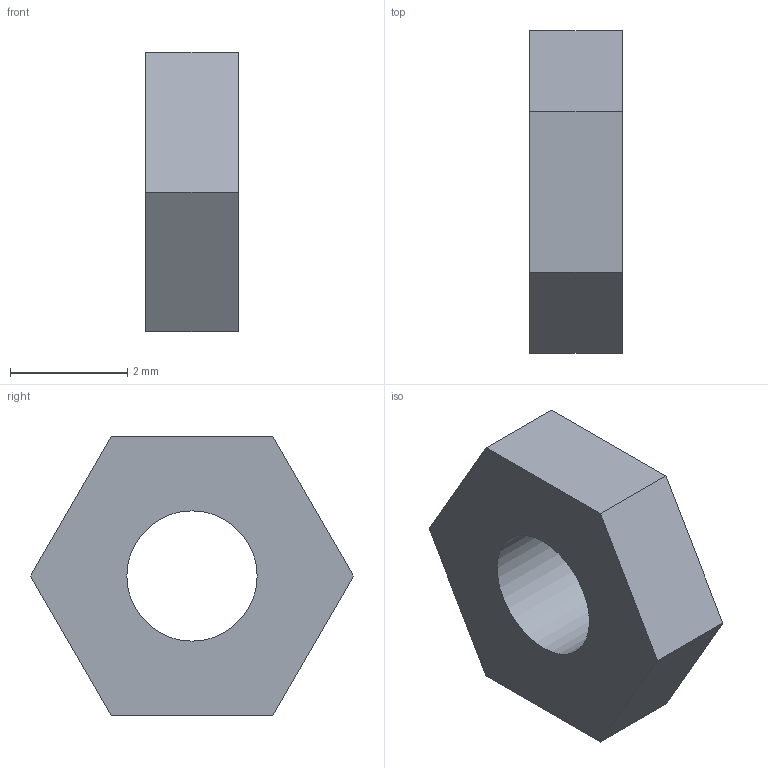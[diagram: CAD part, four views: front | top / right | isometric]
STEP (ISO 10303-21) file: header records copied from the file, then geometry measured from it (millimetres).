
FILE_DESCRIPTION(('Open CASCADE Model'),'2;1');
FILE_NAME('Open CASCADE Shape Model','2026-09-09T10:24:07',('Author'),( 'Open CASCADE'),'Open CASCADE STEP processor 7.8','Open CASCADE 7.8' ,'Unknown');
FILE_SCHEMA(('AUTOMOTIVE_DESIGN { 1 0 10303 214 1 1 1 1 }'));
Length unit declared in the file: millimetre
Products named in the file (1): Open CASCADE STEP translator 7.8 23
Bounding box: 1.57 x 5.5 x 4.76 mm (x, y, z)
Volume: 24.8 mm3; surface area: 68.5 mm2
Topology: 1 solids, 1 shells, 9 faces, 21 edges, 14 vertices
Faces by surface type: plane 8, cylinder 1
Full cylindrical faces by diameter (mm): 2.22 x1
Entity records: 544 total; most frequent: CARTESIAN_POINT 87, DIRECTION 85, LINE 59, VECTOR 59, ORIENTED_EDGE 42, PCURVE 42, DEFINITIONAL_REPRESENTATION 42, EDGE_CURVE 21
